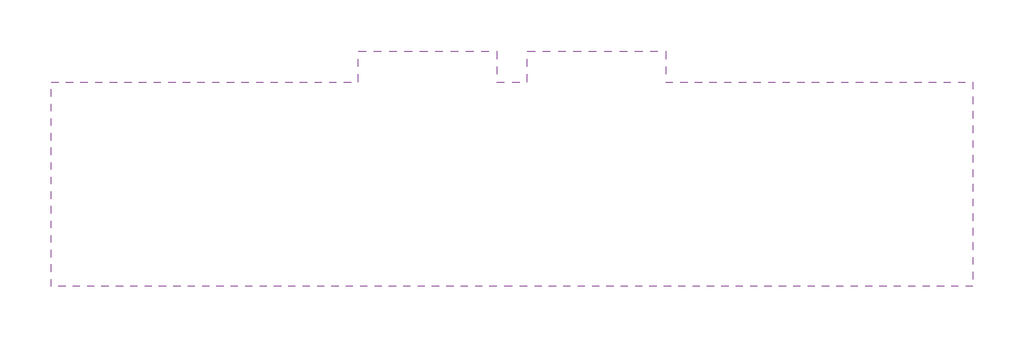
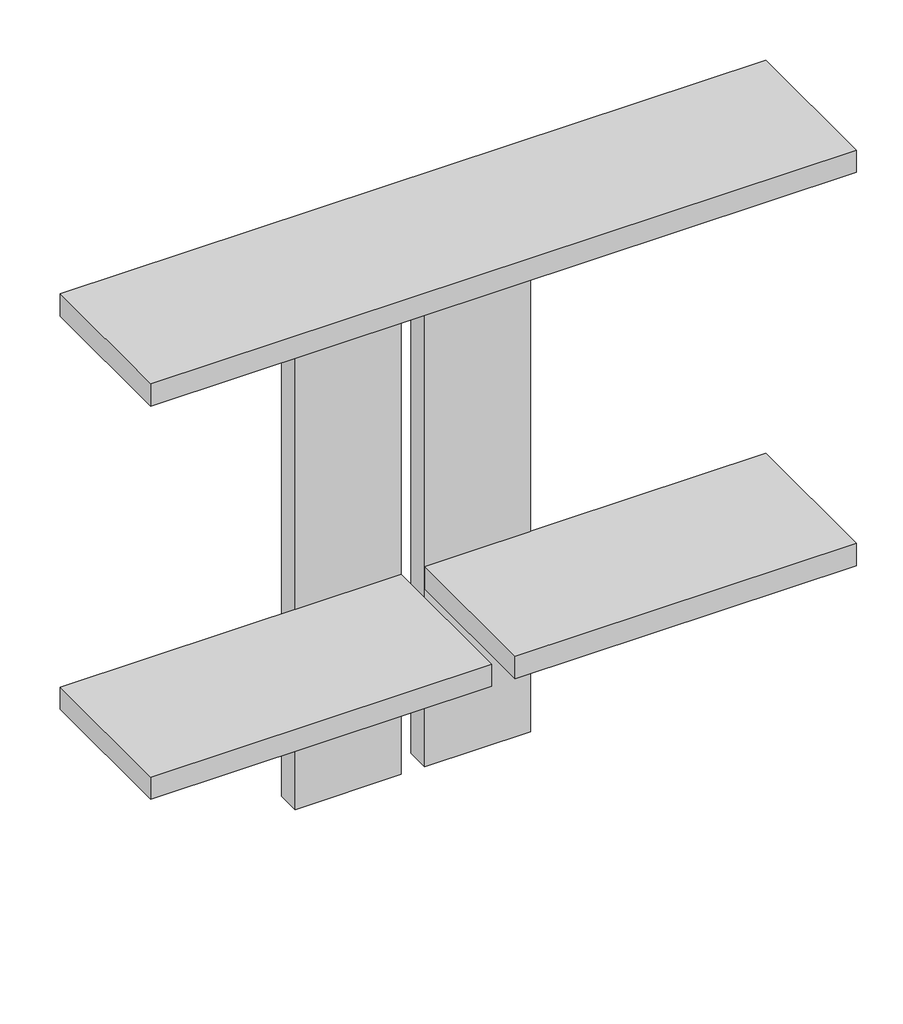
# One storey: 1 proxy.
"""IFC4 building model written with IfcOpenShell, lengths in millimetres."""

from ifc_helpers import new_model, si_unit, origin, place, context, project, spatial, transform, mapped, element, save
from components import generic_models_2490e22a

model = new_model("IFC4")

# Units and contexts
model_context = context("Model", 3, world=origin())
ifc_project = project(units=[si_unit("LENGTHUNIT", "METRE", prefix="MILLI")], contexts=[model_context])

# Site, building, storey
site = spatial("IfcSite", under=ifc_project)
building = spatial("IfcBuilding", under=site)
storey = spatial("IfcBuildingStorey", under=building, Name="标高 1", Elevation=0.0)

# Proxy
placement = place(None, origin())
generic_models_shape = generic_models_2490e22a(model_context)
element("IfcBuildingElementProxy", 1, Name="常规模型 1 : 常规模型 1", ObjectType="常规模型 1 : 常规模型 1", at=placement, inside=storey, context=model_context, shape_type="MappedRepresentation", body=[
    mapped(generic_models_shape, transform((0.0, 0.0, 0.0), x_axis=(1.0, 0.0, 0.0), y_axis=(0.0, 1.0, 0.0), z_axis=(0.0, 0.0, 1.0))),
])

save(model, "model.ifc")
